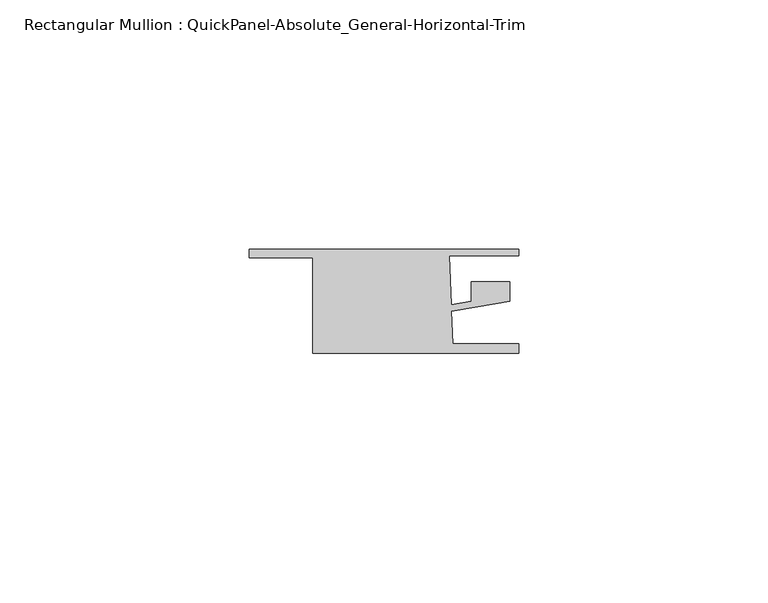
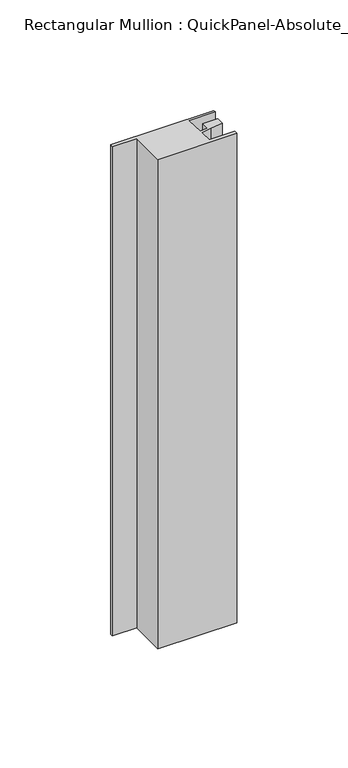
"""IFC4 building model written with IfcOpenShell, lengths in millimetres: member geometry, Rectangular Mullion : QuickPanel-Absolute_General-Horizontal-Trim."""

from ifc_helpers import new_model, si_unit, frame, origin, place, context, project, spatial, polyline, outline, extrude, source, transform, mapped, element, save


def rectangular_mullion_quickpanel_absolute_general_horizontal_31412796(model_context):
    return source(origin(), model_context, "Body", "SweptSolid", [
        extrude(outline(polyline([(28.3897075, -8.6293878), (-12.9047811, -8.6293878), (-12.9047811, 10.4985348), (-25.5852925, 10.4985348), (-25.5852925, 12.1803727), (28.3897075, 12.1803727), (28.3897075, 10.9303752), (14.533354, 10.9303752), (14.8772811, 1.0815922), (18.86285, 1.7648465), (18.86285, 5.6493034), (26.6076231, 5.6493034), (26.6076231, 1.8040245), (20.1722905, 0.7008023), (14.9220096, -0.1992641), (15.1487948, -6.6935423), (28.3897075, -6.6935423), (28.3897075, -8.6293878)])), frame((0.0, 0.0, -270.290162), z_axis=(0.0, 0.0, 1.0), x_axis=(1.0, 0.0, 0.0)), (0.0, 0.0, 1.0), 270.290162),
    ])


if __name__ == "__main__":
    model = new_model("IFC4")
    model_context = context("Model", 3, world=origin())
    ifc_project = project(units=[si_unit("LENGTHUNIT", "METRE", prefix="MILLI")], contexts=[model_context])
    site = spatial("IfcSite", under=ifc_project)
    building = spatial("IfcBuilding", under=site)
    placement = place(None, origin())
    rectangular_mullion_quickpanel_absolute_general_horizontal_shape = rectangular_mullion_quickpanel_absolute_general_horizontal_31412796(model_context)
    element("IfcMember", 1, ObjectType="Rectangular Mullion : QuickPanel-Absolute_General-Horizontal-Trim", at=placement, inside=building, context=model_context, shape_type="MappedRepresentation", body=[
        mapped(rectangular_mullion_quickpanel_absolute_general_horizontal_shape, transform((0.0, 0.0, 0.0), x_axis=(1.0, 0.0, 0.0), y_axis=(0.0, 1.0, 0.0), z_axis=(0.0, 0.0, 1.0))),
    ])
    save(model, "model.ifc")
